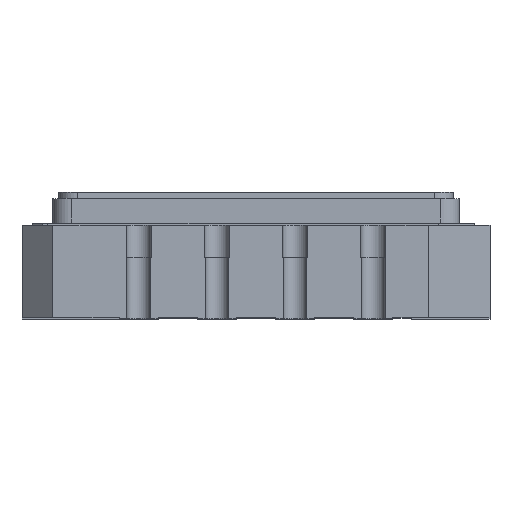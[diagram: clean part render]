
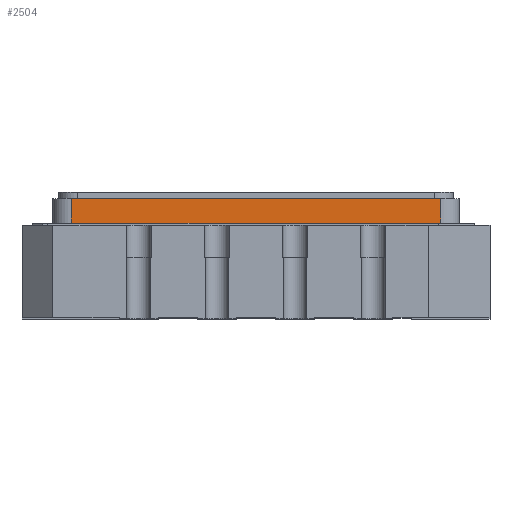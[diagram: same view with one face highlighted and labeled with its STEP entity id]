
A CAD part, top view. The second image highlights one B-rep face of the part: STEP entity #2504.
In plain terms, the highlighted planar face has unit normal (0, 0, 1).
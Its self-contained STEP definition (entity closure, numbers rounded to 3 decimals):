
#2504=ADVANCED_FACE('',(#12129),#12131,.T.);
#12129=FACE_BOUND('',#12130,.T.);
#12130=EDGE_LOOP('',(#19739,#19740,#19741,#19742));
#12131=PLANE('',#12132);
#12132=AXIS2_PLACEMENT_3D('',#12133,#12134,#12135);
#12133=CARTESIAN_POINT('',(-3.3,-0.4,3.3));
#12134=DIRECTION('',(0.,0.,1.));
#12135=DIRECTION('',(1.,0.,0.));
#19739=ORIENTED_EDGE('',*,*,#25756,.F.);
#19740=ORIENTED_EDGE('',*,*,#25719,.T.);
#19741=ORIENTED_EDGE('',*,*,#25757,.T.);
#19742=ORIENTED_EDGE('',*,*,#25737,.F.);
#25719=EDGE_CURVE('',#29489,#29487,#29490,.T.);
#25737=EDGE_CURVE('',#29523,#29525,#29526,.T.);
#25756=EDGE_CURVE('',#29489,#29523,#29554,.T.);
#25757=EDGE_CURVE('',#29487,#29525,#29555,.T.);
#29487=VERTEX_POINT('',#36484);
#29489=VERTEX_POINT('',#36489);
#29490=LINE('',#36490,#36491);
#29523=VERTEX_POINT('',#36565);
#29525=VERTEX_POINT('',#36570);
#29526=LINE('',#36571,#36572);
#29554=LINE('',#36642,#36643);
#29555=LINE('',#36645,#36646);
#36484=CARTESIAN_POINT('',(3.,-0.4,3.3));
#36489=CARTESIAN_POINT('',(-3.,-0.4,3.3));
#36490=CARTESIAN_POINT('',(-3.,-0.4,3.3));
#36491=VECTOR('',#36492,1.);
#36492=DIRECTION('',(1.,0.,0.));
#36565=CARTESIAN_POINT('',(-3.,0.,3.3));
#36570=CARTESIAN_POINT('',(3.,0.,3.3));
#36571=CARTESIAN_POINT('',(-3.,0.,3.3));
#36572=VECTOR('',#36573,1.);
#36573=DIRECTION('',(1.,0.,0.));
#36642=CARTESIAN_POINT('',(-3.,-0.4,3.3));
#36643=VECTOR('',#36644,1.);
#36644=DIRECTION('',(0.,1.,0.));
#36645=CARTESIAN_POINT('',(3.,-0.4,3.3));
#36646=VECTOR('',#36647,1.);
#36647=DIRECTION('',(0.,1.,0.));
